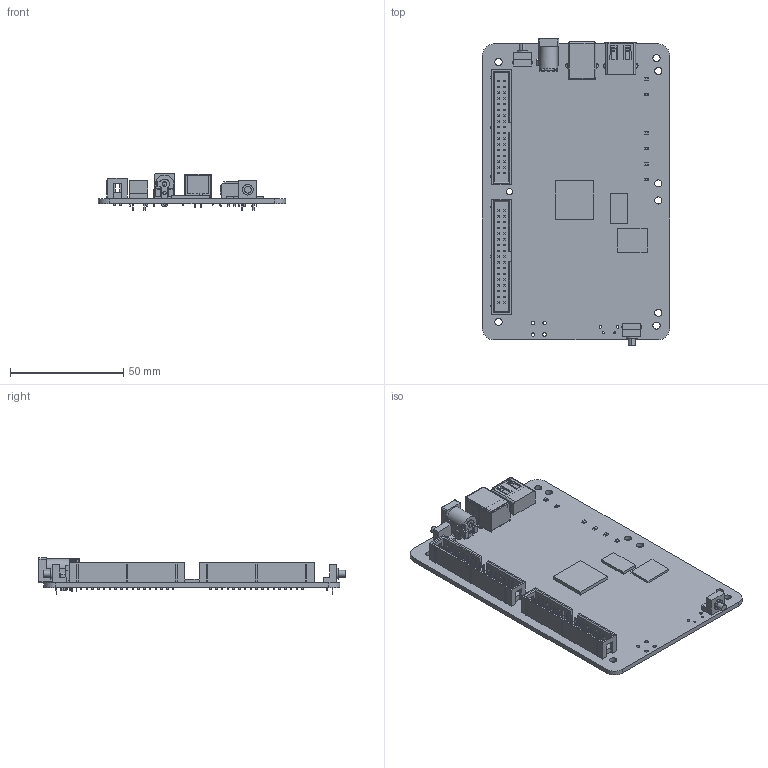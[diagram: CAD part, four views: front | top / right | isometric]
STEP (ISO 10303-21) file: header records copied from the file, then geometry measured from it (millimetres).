
FILE_DESCRIPTION((''),'2;1');
FILE_NAME('CUSTOMER_DWG_SW0001','2013-08-05T',('jbuhisan'),(''),'PRO/ENGINEER BY PARAMETRIC TECHNOLOGY CORPORATION, 2011490','PRO/ENGINEER BY PARAMETRIC TECHNOLOGY CORPORATION, 2011490','');
FILE_SCHEMA(('CONFIG_CONTROL_DESIGN'));
Products named in the file (1): CUSTOMER_DWG_SW0001
Bounding box: 82.7 x 135.67 x 16 mm (x, y, z)
Surface area: 34620.4 mm2 (no closed solid volume)
Topology: 0 solids, 30 shells, 1904 faces, 5784 edges, 3824 vertices
Faces by surface type: plane 1720, cylinder 176, torus 4, revolution 2, bspline 2
Entity records: 63689 total; most frequent: CARTESIAN_POINT 12187, DIRECTION 10222, ORIENTED_EDGE 9932, EDGE_CURVE 5782, VECTOR 4968, LINE 4968, VERTEX_POINT 3824, AXIS2_PLACEMENT_3D 2626
